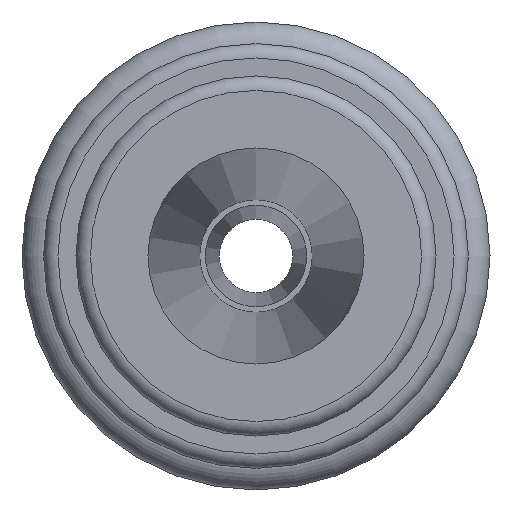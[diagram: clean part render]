
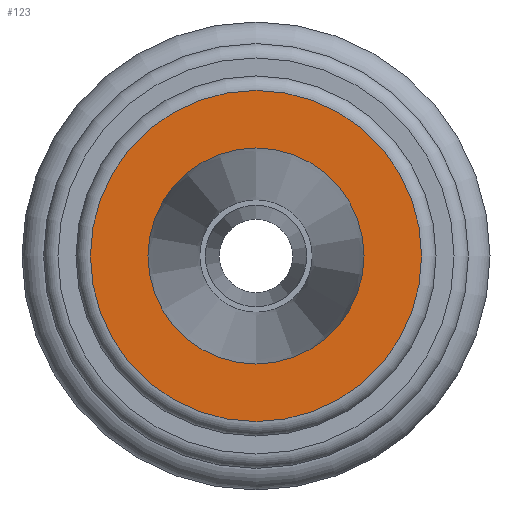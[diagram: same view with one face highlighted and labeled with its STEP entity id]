
A CAD part, left-side view. The second image highlights one B-rep face of the part: STEP entity #123.
In plain terms, the highlighted planar face has unit normal (-1, 0, 0).
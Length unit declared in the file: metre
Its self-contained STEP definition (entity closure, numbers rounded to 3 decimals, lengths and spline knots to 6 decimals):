
#123 = ADVANCED_FACE( '', ( #189, #190 ), #191, .F. );
#189 = FACE_BOUND( '', #384, .T. );
#190 = FACE_OUTER_BOUND( '', #385, .T. );
#191 = PLANE( '', #386 );
#384 = EDGE_LOOP( '', ( #579 ) );
#385 = EDGE_LOOP( '', ( #580 ) );
#386 = AXIS2_PLACEMENT_3D( '', #581, #582, #583 );
#579 = ORIENTED_EDGE( '', *, *, #922, .F. );
#580 = ORIENTED_EDGE( '', *, *, #923, .T. );
#581 = CARTESIAN_POINT( '', ( -0.0169, 0., 0.0015 ) );
#582 = DIRECTION( '', ( 1., 0., 0. ) );
#583 = DIRECTION( '', ( 0., 0., -1. ) );
#922 = EDGE_CURVE( '', #996, #996, #997, .T. );
#923 = EDGE_CURVE( '', #998, #998, #999, .T. );
#996 = VERTEX_POINT( '', #1140 );
#997 = CIRCLE( '', #1141, 0.0015 );
#998 = VERTEX_POINT( '', #1142 );
#999 = CIRCLE( '', #1143, 0.0023 );
#1140 = CARTESIAN_POINT( '', ( -0.0169, 0., 0.0015 ) );
#1141 = AXIS2_PLACEMENT_3D( '', #1354, #1355, #1356 );
#1142 = CARTESIAN_POINT( '', ( -0.0169, 0., 0.0023 ) );
#1143 = AXIS2_PLACEMENT_3D( '', #1357, #1358, #1359 );
#1354 = CARTESIAN_POINT( '', ( -0.0169, 0., 0. ) );
#1355 = DIRECTION( '', ( -1., 0., 0. ) );
#1356 = DIRECTION( '', ( 0., 0., 1. ) );
#1357 = CARTESIAN_POINT( '', ( -0.0169, 0., 0. ) );
#1358 = DIRECTION( '', ( -1., 0., 0. ) );
#1359 = DIRECTION( '', ( 0., 0., 1. ) );
